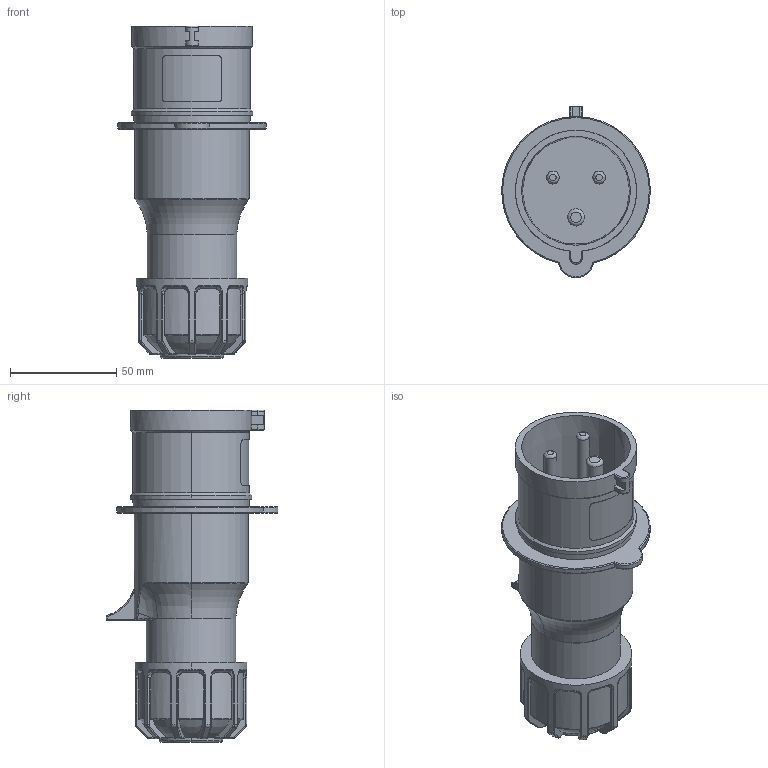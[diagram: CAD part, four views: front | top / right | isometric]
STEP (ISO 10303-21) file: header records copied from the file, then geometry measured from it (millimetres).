
FILE_DESCRIPTION(('FreeCAD Model'),'2;1');
FILE_NAME('Open CASCADE Shape Model','2026-02-04T09:39:16',(''),(''), 'Open CASCADE STEP processor 7.8','FreeCAD','Unknown');
FILE_SCHEMA(('AUTOMOTIVE_DESIGN { 1 0 10303 214 1 1 1 1 }'));
Length unit declared in the file: millimetre
Products named in the file (6): TL3P32432; Prensa cabo; Tomada; Pino Neutro; Pino Terra; Pino L1
Assembly tree (5 placements, depth 2):
  TL3P32432
    Prensa cabo
    Tomada
    Pino Neutro
    Pino Terra
    Pino L1
Bounding box: 69.96 x 80.9 x 156.2 mm (x, y, z)
Volume: 230246 mm3; surface area: 52884.9 mm2
Topology: 5 solids, 10 shells, 434 faces, 1035 edges, 625 vertices
Faces by surface type: bspline 141, plane 100, cylinder 99, torus 62, cone 26, sphere 6
Full cylindrical faces by diameter (mm): 6 x2, 8 x1, 42 x1, 54.7 x1
Entity records: 21940 total; most frequent: CARTESIAN_POINT 12883, ORIENTED_EDGE 2070, DIRECTION 1613, EDGE_CURVE 1035, AXIS2_PLACEMENT_3D 689, VERTEX_POINT 625, FACE_BOUND 440, EDGE_LOOP 440
